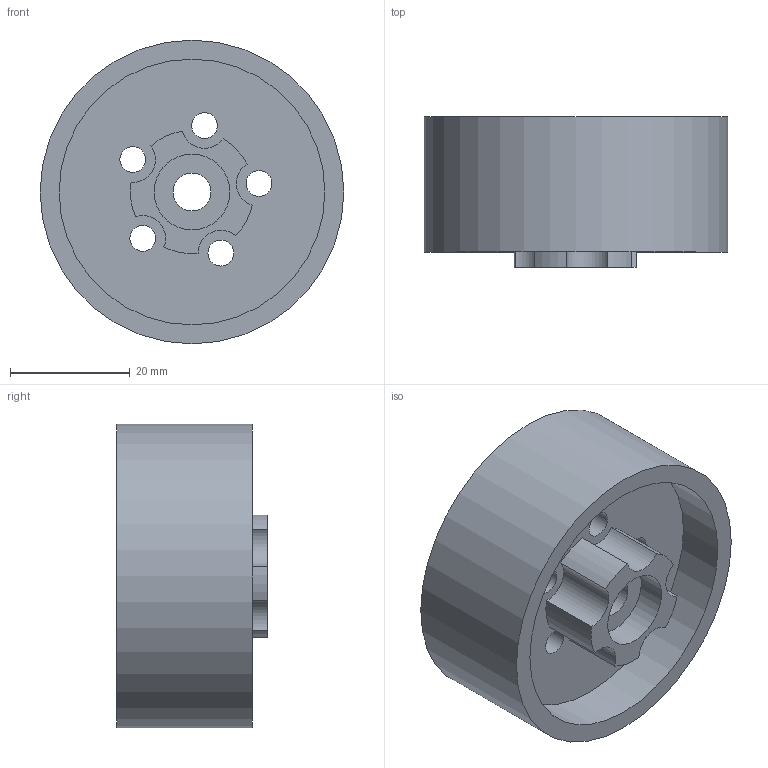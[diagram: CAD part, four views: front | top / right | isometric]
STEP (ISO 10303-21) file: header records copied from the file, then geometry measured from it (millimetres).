
FILE_DESCRIPTION(/* description */ ('STEP AP242 Edition 2','CAx-IF Rec.Pracs.---Representation and Presentation of Product Manufacturing Information (PMI)---4.0---2014-10-13','CAx-IF Rec.Pracs.---3D Tessellated Geometry---0.4---2014-09-14','2;1','CAx-IF Rec.Pracs.---User Defined Attributes---1.5---2016-08-15'),/* implementation_level */ '2;1');
FILE_NAME(/* name */ 'Main - Wheel Hub',/* time_stamp */ '2026-09-13T15:50:02Z',/* author */ (''),/* organization */ (''),/* preprocessor_version */ 'ST-DEVELOPER v20',/* originating_system */ 'ONSHAPE BY PTC INC, 1.220',/* authorisation */ ' ');
FILE_SCHEMA (('AP242_MANAGED_MODEL_BASED_3D_ENGINEERING_MIM_LF { 1 0 10303 442 3 1 4 }'));
Length unit declared in the file: metre
Products named in the file (1): Wheel Hub
Bounding box: 50.8 x 25.18 x 50.8 mm (x, y, z)
Volume: 25174.5 mm3; surface area: 12711.7 mm2
Topology: 1 solids, 1 shells, 30 faces, 66 edges, 44 vertices
Faces by surface type: cylinder 22, plane 8
Full cylindrical faces by diameter (mm): 4.318 x5, 6.35 x1, 12.7 x2, 27.94 x1, 44.45 x2, 50.8 x1
Entity records: 840 total; most frequent: DIRECTION 160, CARTESIAN_POINT 129, ORIENTED_EDGE 108, AXIS2_PLACEMENT_3D 75, EDGE_LOOP 60, FACE_BOUND 60, EDGE_CURVE 54, CIRCLE 44
